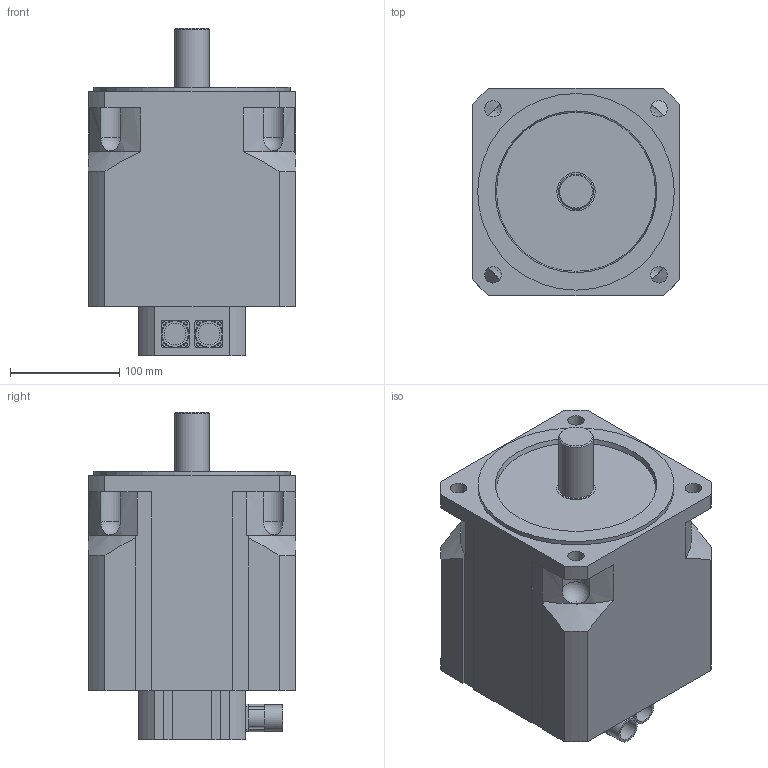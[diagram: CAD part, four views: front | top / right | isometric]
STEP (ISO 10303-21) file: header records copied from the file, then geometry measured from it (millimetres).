
FILE_DESCRIPTION(/* description */ (''),/* implementation_level */ '2;1');
FILE_NAME(/* name */ 'MR7465-Ux-Nxxx-G01-A0D-M0.stp',/* time_stamp */ '2008-06-24T10:14:14+02:00',/* author */ (''),/* organization */ ('ESR Pollmeier GmbH'),/* preprocessor_version */ 'ST-DEVELOPER v8',/* originating_system */ 'UNIGRAPHICS SOLUTIONS - UNIGRAPHICS 18.0',/* authorisation */ '');
FILE_SCHEMA (('AUTOMOTIVE_DESIGN { 1 2 10303 214 0 1 1 1 }'));
Length unit declared in the file: millimetre
Products named in the file (3): Resolverstecker_0; Motorstecker_0; MR7465_0
Assembly tree (2 placements, depth 2):
  MR7465_0
    Motorstecker_0
    Resolverstecker_0
Bounding box: 190 x 190 x 300 mm (x, y, z)
Volume: 7295290.6 mm3; surface area: 259783.2 mm2
Topology: 3 solids, 3 shells, 160 faces, 437 edges, 284 vertices
Faces by surface type: plane 87, cylinder 63, cone 6, sphere 4
Full cylindrical faces by diameter (mm): 2.7 x8, 15 x4, 20 x2, 24 x2, 32 x1, 35 x1, 180 x1
Entity records: 5039 total; most frequent: CARTESIAN_POINT 933, DIRECTION 876, ORIENTED_EDGE 798, EDGE_CURVE 399, AXIS2_PLACEMENT_3D 334, VERTEX_POINT 271, EDGE_LOOP 214, LINE 208
